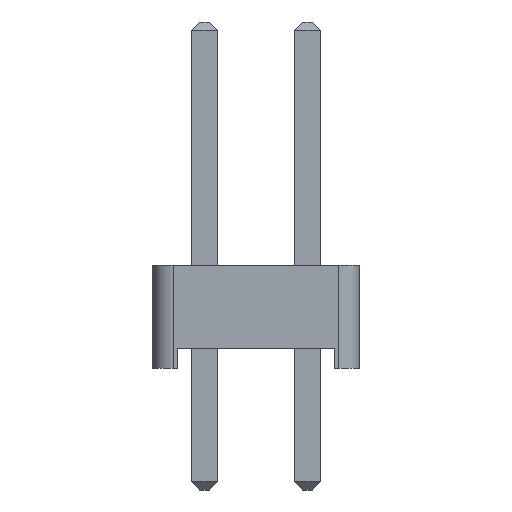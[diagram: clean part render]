
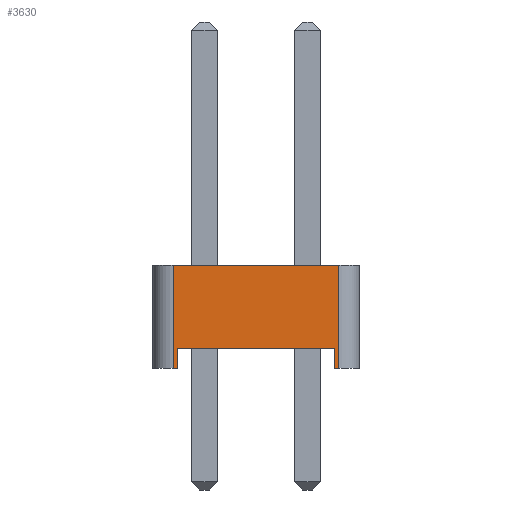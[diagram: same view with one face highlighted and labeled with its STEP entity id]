
A CAD part, left-side view. The second image highlights one B-rep face of the part: STEP entity #3630.
In plain terms, the highlighted planar face has unit normal (-1, 0, 0).
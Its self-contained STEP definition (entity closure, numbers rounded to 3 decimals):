
#3370 = VERTEX_POINT('',#3371);
#3371 = CARTESIAN_POINT('',(-1.27,2.04,0.));
#3379 = PLANE('',#3380);
#3380 = AXIS2_PLACEMENT_3D('',#3381,#3382,#3383);
#3381 = CARTESIAN_POINT('',(0.,0.,0.));
#3382 = DIRECTION('',(-0.,-0.,-1.));
#3383 = DIRECTION('',(-1.,0.,0.));
#3395 = CYLINDRICAL_SURFACE('',#3396,0.5);
#3396 = AXIS2_PLACEMENT_3D('',#3397,#3398,#3399);
#3397 = CARTESIAN_POINT('',(-0.77,2.04,0.));
#3398 = DIRECTION('',(0.,0.,1.));
#3399 = DIRECTION('',(0.,1.,0.));
#3497 = VERTEX_POINT('',#3498);
#3498 = CARTESIAN_POINT('',(-1.27,1.94,0.));
#3512 = PLANE('',#3513);
#3513 = AXIS2_PLACEMENT_3D('',#3514,#3515,#3516);
#3514 = CARTESIAN_POINT('',(1.27,1.94,0.));
#3515 = DIRECTION('',(0.,-1.,0.));
#3516 = DIRECTION('',(-1.,0.,0.));
#3524 = EDGE_CURVE('',#3497,#3370,#3525,.T.);
#3525 = SURFACE_CURVE('',#3526,(#3530,#3537),.PCURVE_S1.);
#3526 = LINE('',#3527,#3528);
#3527 = CARTESIAN_POINT('',(-1.27,-2.54,0.));
#3528 = VECTOR('',#3529,1.);
#3529 = DIRECTION('',(0.,1.,0.));
#3530 = PCURVE('',#3379,#3531);
#3531 = DEFINITIONAL_REPRESENTATION('',(#3532),#3536);
#3532 = LINE('',#3533,#3534);
#3533 = CARTESIAN_POINT('',(1.27,-2.54));
#3534 = VECTOR('',#3535,1.);
#3535 = DIRECTION('',(0.,1.));
#3536 = ( GEOMETRIC_REPRESENTATION_CONTEXT(2) 
PARAMETRIC_REPRESENTATION_CONTEXT() REPRESENTATION_CONTEXT('2D SPACE',''
  ) );
#3537 = PCURVE('',#3538,#3543);
#3538 = PLANE('',#3539);
#3539 = AXIS2_PLACEMENT_3D('',#3540,#3541,#3542);
#3540 = CARTESIAN_POINT('',(-1.27,-2.54,0.));
#3541 = DIRECTION('',(-1.,0.,0.));
#3542 = DIRECTION('',(0.,1.,0.));
#3543 = DEFINITIONAL_REPRESENTATION('',(#3544),#3548);
#3544 = LINE('',#3545,#3546);
#3545 = CARTESIAN_POINT('',(0.,0.));
#3546 = VECTOR('',#3547,1.);
#3547 = DIRECTION('',(1.,0.));
#3548 = ( GEOMETRIC_REPRESENTATION_CONTEXT(2) 
PARAMETRIC_REPRESENTATION_CONTEXT() REPRESENTATION_CONTEXT('2D SPACE',''
  ) );
#3554 = EDGE_CURVE('',#3370,#3555,#3557,.T.);
#3555 = VERTEX_POINT('',#3556);
#3556 = CARTESIAN_POINT('',(-1.27,2.04,2.54));
#3557 = SURFACE_CURVE('',#3558,(#3562,#3569),.PCURVE_S1.);
#3558 = LINE('',#3559,#3560);
#3559 = CARTESIAN_POINT('',(-1.27,2.04,0.));
#3560 = VECTOR('',#3561,1.);
#3561 = DIRECTION('',(0.,0.,1.));
#3562 = PCURVE('',#3395,#3563);
#3563 = DEFINITIONAL_REPRESENTATION('',(#3564),#3568);
#3564 = LINE('',#3565,#3566);
#3565 = CARTESIAN_POINT('',(1.571,0.));
#3566 = VECTOR('',#3567,1.);
#3567 = DIRECTION('',(0.,1.));
#3568 = ( GEOMETRIC_REPRESENTATION_CONTEXT(2) 
PARAMETRIC_REPRESENTATION_CONTEXT() REPRESENTATION_CONTEXT('2D SPACE',''
  ) );
#3569 = PCURVE('',#3538,#3570);
#3570 = DEFINITIONAL_REPRESENTATION('',(#3571),#3575);
#3571 = LINE('',#3572,#3573);
#3572 = CARTESIAN_POINT('',(4.58,0.));
#3573 = VECTOR('',#3574,1.);
#3574 = DIRECTION('',(0.,-1.));
#3575 = ( GEOMETRIC_REPRESENTATION_CONTEXT(2) 
PARAMETRIC_REPRESENTATION_CONTEXT() REPRESENTATION_CONTEXT('2D SPACE',''
  ) );
#3594 = PLANE('',#3595);
#3595 = AXIS2_PLACEMENT_3D('',#3596,#3597,#3598);
#3596 = CARTESIAN_POINT('',(0.,0.,2.54));
#3597 = DIRECTION('',(-0.,-0.,-1.));
#3598 = DIRECTION('',(-1.,0.,0.));
#3630 = ADVANCED_FACE('',(#3631),#3538,.T.);
#3631 = FACE_BOUND('',#3632,.T.);
#3632 = EDGE_LOOP('',(#3633,#3663,#3691,#3712,#3713,#3714,#3737,#3765));
#3633 = ORIENTED_EDGE('',*,*,#3634,.F.);
#3634 = EDGE_CURVE('',#3635,#3637,#3639,.T.);
#3635 = VERTEX_POINT('',#3636);
#3636 = CARTESIAN_POINT('',(-1.27,-2.04,0.));
#3637 = VERTEX_POINT('',#3638);
#3638 = CARTESIAN_POINT('',(-1.27,-1.94,0.));
#3639 = SURFACE_CURVE('',#3640,(#3644,#3651),.PCURVE_S1.);
#3640 = LINE('',#3641,#3642);
#3641 = CARTESIAN_POINT('',(-1.27,-2.54,0.));
#3642 = VECTOR('',#3643,1.);
#3643 = DIRECTION('',(0.,1.,0.));
#3644 = PCURVE('',#3538,#3645);
#3645 = DEFINITIONAL_REPRESENTATION('',(#3646),#3650);
#3646 = LINE('',#3647,#3648);
#3647 = CARTESIAN_POINT('',(0.,0.));
#3648 = VECTOR('',#3649,1.);
#3649 = DIRECTION('',(1.,0.));
#3650 = ( GEOMETRIC_REPRESENTATION_CONTEXT(2) 
PARAMETRIC_REPRESENTATION_CONTEXT() REPRESENTATION_CONTEXT('2D SPACE',''
  ) );
#3651 = PCURVE('',#3652,#3657);
#3652 = PLANE('',#3653);
#3653 = AXIS2_PLACEMENT_3D('',#3654,#3655,#3656);
#3654 = CARTESIAN_POINT('',(0.,0.,0.));
#3655 = DIRECTION('',(-0.,-0.,-1.));
#3656 = DIRECTION('',(-1.,0.,0.));
#3657 = DEFINITIONAL_REPRESENTATION('',(#3658),#3662);
#3658 = LINE('',#3659,#3660);
#3659 = CARTESIAN_POINT('',(1.27,-2.54));
#3660 = VECTOR('',#3661,1.);
#3661 = DIRECTION('',(0.,1.));
#3662 = ( GEOMETRIC_REPRESENTATION_CONTEXT(2) 
PARAMETRIC_REPRESENTATION_CONTEXT() REPRESENTATION_CONTEXT('2D SPACE',''
  ) );
#3663 = ORIENTED_EDGE('',*,*,#3664,.T.);
#3664 = EDGE_CURVE('',#3635,#3665,#3667,.T.);
#3665 = VERTEX_POINT('',#3666);
#3666 = CARTESIAN_POINT('',(-1.27,-2.04,2.54));
#3667 = SURFACE_CURVE('',#3668,(#3672,#3679),.PCURVE_S1.);
#3668 = LINE('',#3669,#3670);
#3669 = CARTESIAN_POINT('',(-1.27,-2.04,0.));
#3670 = VECTOR('',#3671,1.);
#3671 = DIRECTION('',(0.,0.,1.));
#3672 = PCURVE('',#3538,#3673);
#3673 = DEFINITIONAL_REPRESENTATION('',(#3674),#3678);
#3674 = LINE('',#3675,#3676);
#3675 = CARTESIAN_POINT('',(0.5,0.));
#3676 = VECTOR('',#3677,1.);
#3677 = DIRECTION('',(0.,-1.));
#3678 = ( GEOMETRIC_REPRESENTATION_CONTEXT(2) 
PARAMETRIC_REPRESENTATION_CONTEXT() REPRESENTATION_CONTEXT('2D SPACE',''
  ) );
#3679 = PCURVE('',#3680,#3685);
#3680 = CYLINDRICAL_SURFACE('',#3681,0.5);
#3681 = AXIS2_PLACEMENT_3D('',#3682,#3683,#3684);
#3682 = CARTESIAN_POINT('',(-0.77,-2.04,0.));
#3683 = DIRECTION('',(0.,0.,1.));
#3684 = DIRECTION('',(0.,-1.,0.));
#3685 = DEFINITIONAL_REPRESENTATION('',(#3686),#3690);
#3686 = LINE('',#3687,#3688);
#3687 = CARTESIAN_POINT('',(-1.571,0.));
#3688 = VECTOR('',#3689,1.);
#3689 = DIRECTION('',(-0.,1.));
#3690 = ( GEOMETRIC_REPRESENTATION_CONTEXT(2) 
PARAMETRIC_REPRESENTATION_CONTEXT() REPRESENTATION_CONTEXT('2D SPACE',''
  ) );
#3691 = ORIENTED_EDGE('',*,*,#3692,.T.);
#3692 = EDGE_CURVE('',#3665,#3555,#3693,.T.);
#3693 = SURFACE_CURVE('',#3694,(#3698,#3705),.PCURVE_S1.);
#3694 = LINE('',#3695,#3696);
#3695 = CARTESIAN_POINT('',(-1.27,-2.54,2.54));
#3696 = VECTOR('',#3697,1.);
#3697 = DIRECTION('',(0.,1.,0.));
#3698 = PCURVE('',#3538,#3699);
#3699 = DEFINITIONAL_REPRESENTATION('',(#3700),#3704);
#3700 = LINE('',#3701,#3702);
#3701 = CARTESIAN_POINT('',(0.,-2.54));
#3702 = VECTOR('',#3703,1.);
#3703 = DIRECTION('',(1.,0.));
#3704 = ( GEOMETRIC_REPRESENTATION_CONTEXT(2) 
PARAMETRIC_REPRESENTATION_CONTEXT() REPRESENTATION_CONTEXT('2D SPACE',''
  ) );
#3705 = PCURVE('',#3594,#3706);
#3706 = DEFINITIONAL_REPRESENTATION('',(#3707),#3711);
#3707 = LINE('',#3708,#3709);
#3708 = CARTESIAN_POINT('',(1.27,-2.54));
#3709 = VECTOR('',#3710,1.);
#3710 = DIRECTION('',(0.,1.));
#3711 = ( GEOMETRIC_REPRESENTATION_CONTEXT(2) 
PARAMETRIC_REPRESENTATION_CONTEXT() REPRESENTATION_CONTEXT('2D SPACE',''
  ) );
#3712 = ORIENTED_EDGE('',*,*,#3554,.F.);
#3713 = ORIENTED_EDGE('',*,*,#3524,.F.);
#3714 = ORIENTED_EDGE('',*,*,#3715,.T.);
#3715 = EDGE_CURVE('',#3497,#3716,#3718,.T.);
#3716 = VERTEX_POINT('',#3717);
#3717 = CARTESIAN_POINT('',(-1.27,1.94,0.5));
#3718 = SURFACE_CURVE('',#3719,(#3723,#3730),.PCURVE_S1.);
#3719 = LINE('',#3720,#3721);
#3720 = CARTESIAN_POINT('',(-1.27,1.94,0.));
#3721 = VECTOR('',#3722,1.);
#3722 = DIRECTION('',(0.,0.,1.));
#3723 = PCURVE('',#3538,#3724);
#3724 = DEFINITIONAL_REPRESENTATION('',(#3725),#3729);
#3725 = LINE('',#3726,#3727);
#3726 = CARTESIAN_POINT('',(4.48,0.));
#3727 = VECTOR('',#3728,1.);
#3728 = DIRECTION('',(0.,-1.));
#3729 = ( GEOMETRIC_REPRESENTATION_CONTEXT(2) 
PARAMETRIC_REPRESENTATION_CONTEXT() REPRESENTATION_CONTEXT('2D SPACE',''
  ) );
#3730 = PCURVE('',#3512,#3731);
#3731 = DEFINITIONAL_REPRESENTATION('',(#3732),#3736);
#3732 = LINE('',#3733,#3734);
#3733 = CARTESIAN_POINT('',(2.54,0.));
#3734 = VECTOR('',#3735,1.);
#3735 = DIRECTION('',(0.,-1.));
#3736 = ( GEOMETRIC_REPRESENTATION_CONTEXT(2) 
PARAMETRIC_REPRESENTATION_CONTEXT() REPRESENTATION_CONTEXT('2D SPACE',''
  ) );
#3737 = ORIENTED_EDGE('',*,*,#3738,.T.);
#3738 = EDGE_CURVE('',#3716,#3739,#3741,.T.);
#3739 = VERTEX_POINT('',#3740);
#3740 = CARTESIAN_POINT('',(-1.27,-1.94,0.5));
#3741 = SURFACE_CURVE('',#3742,(#3746,#3753),.PCURVE_S1.);
#3742 = LINE('',#3743,#3744);
#3743 = CARTESIAN_POINT('',(-1.27,1.94,0.5));
#3744 = VECTOR('',#3745,1.);
#3745 = DIRECTION('',(0.,-1.,0.));
#3746 = PCURVE('',#3538,#3747);
#3747 = DEFINITIONAL_REPRESENTATION('',(#3748),#3752);
#3748 = LINE('',#3749,#3750);
#3749 = CARTESIAN_POINT('',(4.48,-0.5));
#3750 = VECTOR('',#3751,1.);
#3751 = DIRECTION('',(-1.,0.));
#3752 = ( GEOMETRIC_REPRESENTATION_CONTEXT(2) 
PARAMETRIC_REPRESENTATION_CONTEXT() REPRESENTATION_CONTEXT('2D SPACE',''
  ) );
#3753 = PCURVE('',#3754,#3759);
#3754 = PLANE('',#3755);
#3755 = AXIS2_PLACEMENT_3D('',#3756,#3757,#3758);
#3756 = CARTESIAN_POINT('',(0.,0.,0.5));
#3757 = DIRECTION('',(0.,0.,1.));
#3758 = DIRECTION('',(1.,0.,0.));
#3759 = DEFINITIONAL_REPRESENTATION('',(#3760),#3764);
#3760 = LINE('',#3761,#3762);
#3761 = CARTESIAN_POINT('',(-1.27,1.94));
#3762 = VECTOR('',#3763,1.);
#3763 = DIRECTION('',(0.,-1.));
#3764 = ( GEOMETRIC_REPRESENTATION_CONTEXT(2) 
PARAMETRIC_REPRESENTATION_CONTEXT() REPRESENTATION_CONTEXT('2D SPACE',''
  ) );
#3765 = ORIENTED_EDGE('',*,*,#3766,.F.);
#3766 = EDGE_CURVE('',#3637,#3739,#3767,.T.);
#3767 = SURFACE_CURVE('',#3768,(#3772,#3779),.PCURVE_S1.);
#3768 = LINE('',#3769,#3770);
#3769 = CARTESIAN_POINT('',(-1.27,-1.94,0.));
#3770 = VECTOR('',#3771,1.);
#3771 = DIRECTION('',(0.,0.,1.));
#3772 = PCURVE('',#3538,#3773);
#3773 = DEFINITIONAL_REPRESENTATION('',(#3774),#3778);
#3774 = LINE('',#3775,#3776);
#3775 = CARTESIAN_POINT('',(0.6,0.));
#3776 = VECTOR('',#3777,1.);
#3777 = DIRECTION('',(0.,-1.));
#3778 = ( GEOMETRIC_REPRESENTATION_CONTEXT(2) 
PARAMETRIC_REPRESENTATION_CONTEXT() REPRESENTATION_CONTEXT('2D SPACE',''
  ) );
#3779 = PCURVE('',#3780,#3785);
#3780 = PLANE('',#3781);
#3781 = AXIS2_PLACEMENT_3D('',#3782,#3783,#3784);
#3782 = CARTESIAN_POINT('',(-1.27,-1.94,0.));
#3783 = DIRECTION('',(0.,1.,0.));
#3784 = DIRECTION('',(1.,0.,0.));
#3785 = DEFINITIONAL_REPRESENTATION('',(#3786),#3790);
#3786 = LINE('',#3787,#3788);
#3787 = CARTESIAN_POINT('',(0.,0.));
#3788 = VECTOR('',#3789,1.);
#3789 = DIRECTION('',(0.,-1.));
#3790 = ( GEOMETRIC_REPRESENTATION_CONTEXT(2) 
PARAMETRIC_REPRESENTATION_CONTEXT() REPRESENTATION_CONTEXT('2D SPACE',''
  ) );
